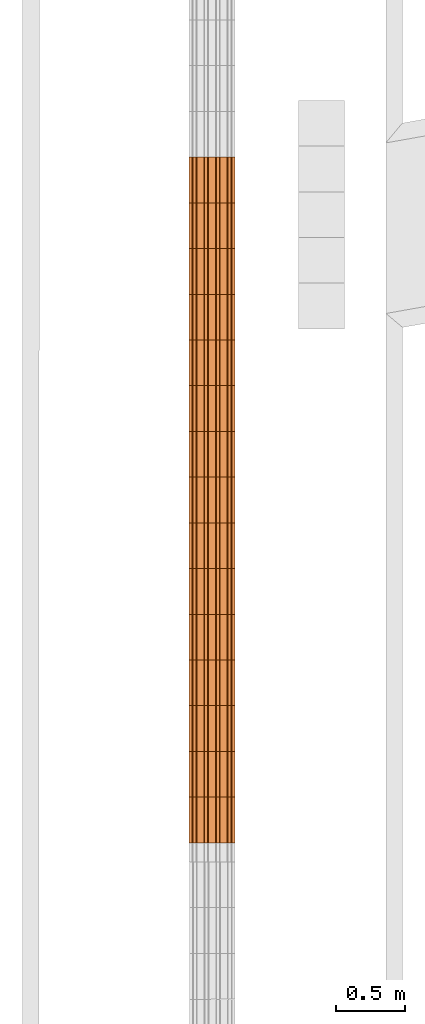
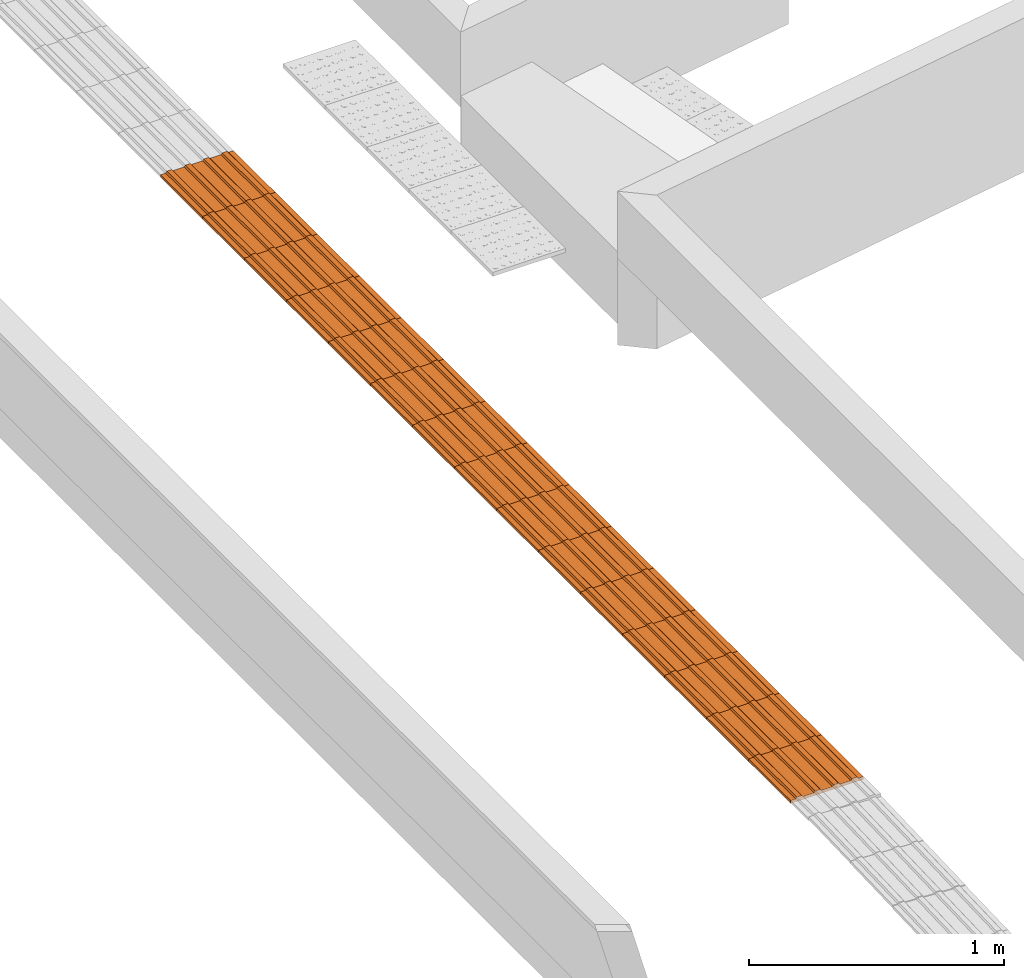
# One storey, part 193 of 237: 15 proxies.
"""IFC2X3 building model written with IfcOpenShell, lengths in millimetres."""

from ifc_helpers import new_model, entity, si_unit, converted_unit, derived_unit, money_unit, direction, frame, origin_with_axes, place, context, subcontext, project, spatial, open_shell, surface_model, source, transform, mapped, type_object, element, save


model = new_model("IFC2X3")

# Units and contexts
model_context = context("Model", 3, precision=0.01, world=origin_with_axes(), true_north=direction((0.0, 1.0)))
body_context = subcontext(model_context, "Body", "Model", "MODEL_VIEW")
ifc_project = project(units=[si_unit("LENGTHUNIT", "METRE", prefix="MILLI"), si_unit("AREAUNIT", "SQUARE_METRE"), si_unit("VOLUMEUNIT", "CUBIC_METRE"), converted_unit("PLANEANGLEUNIT", "DEGREE", entity("IfcPlaneAngleMeasure", 0.0174532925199), si_unit("PLANEANGLEUNIT", "RADIAN"), dimensions=[0, 0, 0, 0, 0, 0, 0]), money_unit("USD"), converted_unit("TIMEUNIT", "Year", entity("IfcTimeMeasure", 31556926.0), si_unit("TIMEUNIT", "SECOND"), dimensions=[0, 0, 1, 0, 0, 0, 0]), si_unit("MASSUNIT", "GRAM", prefix="KILO"), si_unit("THERMODYNAMICTEMPERATUREUNIT", "DEGREE_CELSIUS"), si_unit("LUMINOUSINTENSITYUNIT", "LUMEN"), si_unit("ENERGYUNIT", "JOULE", prefix="MEGA"), derived_unit("THERMALCONDUCTANCEUNIT", [(si_unit("POWERUNIT", "WATT"), 1), (si_unit("LENGTHUNIT", "METRE"), -1), (si_unit("THERMODYNAMICTEMPERATUREUNIT", "KELVIN"), -1)]), derived_unit("SPECIFICHEATCAPACITYUNIT", [(si_unit("ENERGYUNIT", "JOULE"), 1), (si_unit("MASSUNIT", "GRAM", prefix="KILO"), -1), (si_unit("THERMODYNAMICTEMPERATUREUNIT", "KELVIN"), -1)]), derived_unit("MASSDENSITYUNIT", [(si_unit("MASSUNIT", "GRAM", prefix="KILO"), 1), (si_unit("VOLUMEUNIT", "CUBIC_METRE"), -1)])], contexts=[model_context])

# Site, building, storey
site_placement = place(None, origin_with_axes())
site = spatial("IfcSite", under=ifc_project, at=site_placement, Name="Local", CompositionType="ELEMENT")
building_placement = place(site_placement, origin_with_axes())
building = spatial("IfcBuilding", under=site, at=building_placement, Name="Construção", CompositionType="ELEMENT")
storey_placement = place(building_placement, origin_with_axes())
storey = spatial("IfcBuildingStorey", under=building, at=storey_placement, Name="Pavimento Térreo", CompositionType="ELEMENT", Elevation=0.0)

# Proxies
building_element_proxy_type = type_object("IfcBuildingElementProxyType", Name="Piso Direcional 27", PredefinedType="NOTDEFINED")
shared_shape = source(origin_with_axes(), body_context, "Body", "SurfaceModel", [
    surface_model("IfcShellBasedSurfaceModel", [(0.0, -47.258225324, 4.02852049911), (330.0, -47.258225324, 4.02852049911), (330.0, -41.665004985, 10.6951871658), (0.0, -41.665004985, 10.6951871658)], [open_shell([[[0, 1, 2, 3]]])]),
    surface_model("IfcShellBasedSurfaceModel", [(330.0, -153.529411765, -9.30481283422), (330.0, 176.470588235, -9.30481283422), (330.0, 176.470588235, 4.02852049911), (330.0, 154.097706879, 4.02852049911), (330.0, 148.50448654, 10.6951871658), (330.0, 126.131605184, 10.6951871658), (330.0, 120.538384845, 4.02852049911), (330.0, 70.1994017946, 4.02852049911), (330.0, 64.6061814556, 10.6951871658), (330.0, 42.2333000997, 10.6951871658), (330.0, 36.6400797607, 4.02852049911), (330.0, -13.6989032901, 4.02852049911), (330.0, -19.2921236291, 10.6951871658), (330.0, -41.665004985, 10.6951871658), (330.0, -47.258225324, 4.02852049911), (330.0, -97.5972083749, 4.02852049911), (330.0, -103.190428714, 10.6951871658), (330.0, -125.56331007, 10.6951871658), (330.0, -131.156530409, 4.02852049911), (330.0, -153.529411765, 4.02852049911)], [open_shell([[[0, 1, 2, 3, 4, 5, 6, 7, 8, 9, 10, 11, 12, 13, 14, 15, 16, 17, 18, 19]]])]),
    surface_model("IfcShellBasedSurfaceModel", [(0.0, -19.2921236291, 10.6951871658), (330.0, -19.2921236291, 10.6951871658), (330.0, -13.6989032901, 4.02852049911), (0.0, -13.6989032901, 4.02852049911)], [open_shell([[[0, 1, 2, 3]]])]),
    surface_model("IfcShellBasedSurfaceModel", [(0.0, -103.190428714, 10.6951871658), (330.0, -103.190428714, 10.6951871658), (330.0, -97.5972083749, 4.02852049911), (0.0, -97.5972083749, 4.02852049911)], [open_shell([[[0, 1, 2, 3]]])]),
    surface_model("IfcShellBasedSurfaceModel", [(0.0, 64.6061814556, 10.6951871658), (330.0, 64.6061814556, 10.6951871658), (330.0, 70.1994017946, 4.02852049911), (0.0, 70.1994017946, 4.02852049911)], [open_shell([[[0, 1, 2, 3]]])]),
    surface_model("IfcShellBasedSurfaceModel", [(0.0, 36.6400797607, 4.02852049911), (330.0, 36.6400797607, 4.02852049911), (330.0, 42.2333000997, 10.6951871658), (0.0, 42.2333000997, 10.6951871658)], [open_shell([[[0, 1, 2, 3]]])]),
    surface_model("IfcShellBasedSurfaceModel", [(0.0, -131.156530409, 4.02852049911), (330.0, -131.156530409, 4.02852049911), (330.0, -125.56331007, 10.6951871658), (0.0, -125.56331007, 10.6951871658)], [open_shell([[[0, 1, 2, 3]]])]),
    surface_model("IfcShellBasedSurfaceModel", [(0.0, 176.470588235, 4.02852049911), (0.0, 154.097706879, 4.02852049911), (330.0, 154.097706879, 4.02852049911), (330.0, 176.470588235, 4.02852049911)], [open_shell([[[0, 1, 2, 3]]])]),
    surface_model("IfcShellBasedSurfaceModel", [(0.0, 120.538384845, 4.02852049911), (330.0, 120.538384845, 4.02852049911), (330.0, 126.131605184, 10.6951871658), (0.0, 126.131605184, 10.6951871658)], [open_shell([[[0, 1, 2, 3]]])]),
    surface_model("IfcShellBasedSurfaceModel", [(0.0, 148.50448654, 10.6951871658), (330.0, 148.50448654, 10.6951871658), (330.0, 154.097706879, 4.02852049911), (0.0, 154.097706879, 4.02852049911)], [open_shell([[[0, 1, 2, 3]]])]),
    surface_model("IfcShellBasedSurfaceModel", [(0.0, 36.6400797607, 4.02852049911), (0.0, -13.6989032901, 4.02852049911), (330.0, -13.6989032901, 4.02852049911), (330.0, 36.6400797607, 4.02852049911)], [open_shell([[[0, 1, 2, 3]]])]),
    surface_model("IfcShellBasedSurfaceModel", [(0.0, 120.538384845, 4.02852049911), (0.0, 70.1994017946, 4.02852049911), (330.0, 70.1994017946, 4.02852049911), (330.0, 120.538384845, 4.02852049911)], [open_shell([[[0, 1, 2, 3]]])]),
    surface_model("IfcShellBasedSurfaceModel", [(0.0, 148.50448654, 10.6951871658), (0.0, 126.131605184, 10.6951871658), (330.0, 126.131605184, 10.6951871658), (330.0, 148.50448654, 10.6951871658)], [open_shell([[[0, 1, 2, 3]]])]),
    surface_model("IfcShellBasedSurfaceModel", [(0.0, 120.538384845, 4.02852049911), (0.0, 126.131605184, 10.6951871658), (0.0, 148.50448654, 10.6951871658), (0.0, 154.097706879, 4.02852049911), (0.0, 176.470588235, 4.02852049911), (0.0, 176.470588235, -9.30481283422), (0.0, -153.529411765, -9.30481283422), (0.0, -153.529411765, 4.02852049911), (0.0, -131.156530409, 4.02852049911), (0.0, -125.56331007, 10.6951871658), (0.0, -103.190428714, 10.6951871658), (0.0, -97.5972083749, 4.02852049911), (0.0, -47.258225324, 4.02852049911), (0.0, -41.665004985, 10.6951871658), (0.0, -19.2921236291, 10.6951871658), (0.0, -13.6989032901, 4.02852049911), (0.0, 36.6400797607, 4.02852049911), (0.0, 42.2333000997, 10.6951871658), (0.0, 64.6061814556, 10.6951871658), (0.0, 70.1994017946, 4.02852049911)], [open_shell([[[0, 1, 2, 3, 4, 5, 6, 7, 8, 9, 10, 11, 12, 13, 14, 15, 16, 17, 18, 19]]])]),
    surface_model("IfcShellBasedSurfaceModel", [(330.0, -41.665004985, 10.6951871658), (330.0, -19.2921236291, 10.6951871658), (0.0, -19.2921236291, 10.6951871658), (0.0, -41.665004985, 10.6951871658)], [open_shell([[[0, 1, 2, 3]]])]),
    surface_model("IfcShellBasedSurfaceModel", [(0.0, -47.258225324, 4.02852049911), (0.0, -97.5972083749, 4.02852049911), (330.0, -97.5972083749, 4.02852049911), (330.0, -47.258225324, 4.02852049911)], [open_shell([[[0, 1, 2, 3]]])]),
    surface_model("IfcShellBasedSurfaceModel", [(330.0, 42.2333000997, 10.6951871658), (330.0, 64.6061814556, 10.6951871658), (0.0, 64.6061814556, 10.6951871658), (0.0, 42.2333000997, 10.6951871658)], [open_shell([[[0, 1, 2, 3]]])]),
    surface_model("IfcShellBasedSurfaceModel", [(330.0, -125.56331007, 10.6951871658), (330.0, -103.190428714, 10.6951871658), (0.0, -103.190428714, 10.6951871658), (0.0, -125.56331007, 10.6951871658)], [open_shell([[[0, 1, 2, 3]]])]),
    surface_model("IfcShellBasedSurfaceModel", [(330.0, 176.470588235, -9.30481283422), (0.0, 176.470588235, -9.30481283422), (0.0, 176.470588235, 4.02852049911), (330.0, 176.470588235, 4.02852049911)], [open_shell([[[0, 1, 2, 3]]])]),
    surface_model("IfcShellBasedSurfaceModel", [(330.0, -153.529411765, -9.30481283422), (0.0, -153.529411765, -9.30481283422), (0.0, 176.470588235, -9.30481283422), (330.0, 176.470588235, -9.30481283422)], [open_shell([[[0, 1, 2, 3]]])]),
    surface_model("IfcShellBasedSurfaceModel", [(330.0, -153.529411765, 4.02852049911), (330.0, -131.156530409, 4.02852049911), (0.0, -131.156530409, 4.02852049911), (0.0, -153.529411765, 4.02852049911)], [open_shell([[[0, 1, 2, 3]]])]),
    surface_model("IfcShellBasedSurfaceModel", [(0.0, -153.529411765, -9.30481283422), (330.0, -153.529411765, -9.30481283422), (330.0, -153.529411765, 4.02852049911), (0.0, -153.529411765, 4.02852049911)], [open_shell([[[0, 1, 2, 3]]])]),
])
for number, where, z_axis, x_axis, name in (
    (1, (135346.086311, 19424.0480214, -7938.92704592), (0.0, 0.0, 1.0), (0.0, -1.0, 0.0), "Objeto-0055"),
    (2, (135346.086311, 19094.0480214, -7938.92704592), (0.0, 0.0, 1.0), (0.0, -1.0, 0.0), "Objeto-0055"),
    (3, (135346.086311, 18764.0779852, -7938.92704592), (0.0, 0.0, 1.0), (0.0, -1.0, 0.0), "Objeto-0055"),
    (4, (135346.086311, 18434.1079491, -7938.92704592), (0.0, 0.0, 1.0), (0.0, -1.0, 0.0), "Objeto-0055"),
    (5, (135346.086311, 18104.137913, -7938.92704592), (0.0, 0.0, 1.0), (0.0, -1.0, 0.0), "Objeto-0055"),
    (6, (135346.086311, 17774.1678768, -7938.92704592), (0.0, 0.0, 1.0), (0.0, -1.0, 0.0), "Objeto-0055"),
    (7, (135346.086311, 17444.1978407, -7938.92704592), (0.0, 0.0, 1.0), (0.0, -1.0, 0.0), "Objeto-0055"),
    (8, (135346.086311, 17114.2278046, -7938.92704592), (0.0, 0.0, 1.0), (0.0, -1.0, 0.0), "Objeto-0055"),
    (9, (135346.086311, 16784.2577684, -7938.92704592), (0.0, 0.0, 1.0), (0.0, -1.0, 0.0), "Objeto-0055"),
    (10, (135346.086311, 16454.2877323, -7938.92704592), (0.0, 0.0, 1.0), (0.0, -1.0, 0.0), "Objeto-0055"),
    (11, (135346.086311, 16124.3176962, -7938.92704592), (0.0, 0.0, 1.0), (0.0, -1.0, 0.0), "Objeto-0055"),
    (12, (135346.086311, 15794.3176962, -7938.92704592), (0.0, 0.0, 1.0), (0.0, -1.0, 0.0), "Objeto-0055"),
    (13, (135346.086311, 15464.3176962, -7938.92704592), (0.0, 0.0, 1.0), (0.0, -1.0, 0.0), "Objeto-0055"),
    (14, (135346.086311, 15134.3176962, -7938.92704592), (0.0, 0.0, 1.0), (0.0, -1.0, 0.0), "Objeto-0055"),
    (15, (135346.086311, 14804.3176962, -7938.92704592), (0.0, 0.0, 1.0), (0.0, -1.0, 0.0), "Objeto-0055"),
):
    element("IfcBuildingElementProxy", number, at=place(storey_placement, frame(where, z_axis=z_axis, x_axis=x_axis)), inside=storey, type_object=building_element_proxy_type, Name=name, context=body_context, shape_type="MappedRepresentation", body=[
        mapped(shared_shape, transform((0.0, 0.0, 0.0))),
    ])

save(model, "model.ifc")
